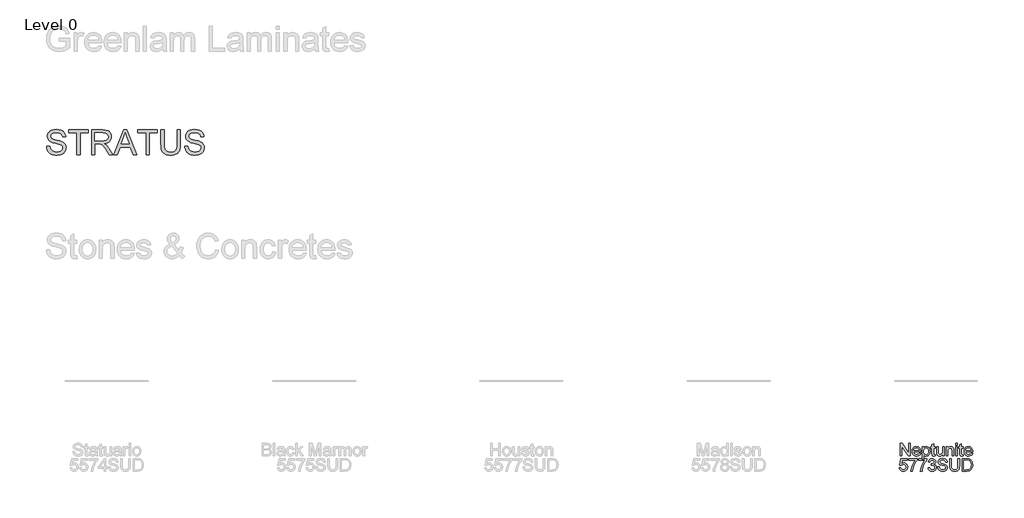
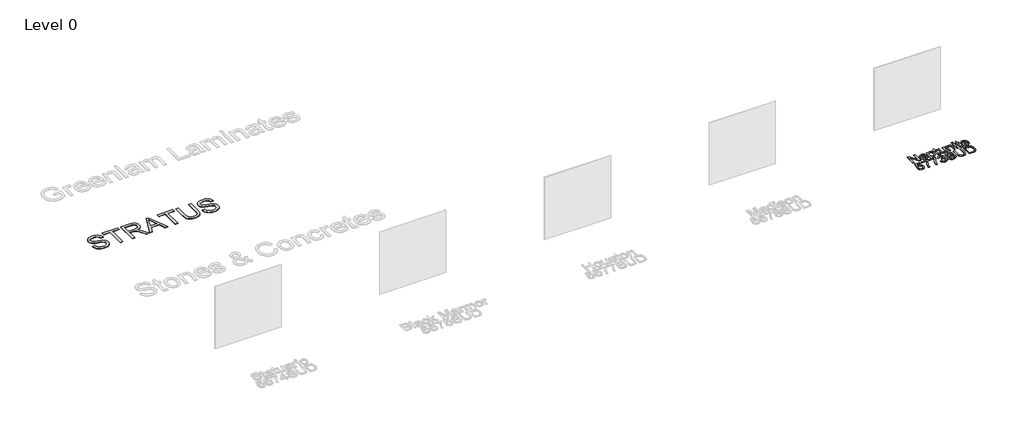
# One storey, part 11 of 12: 2 proxies.
"""IFC4 building model written with IfcOpenShell, lengths in millimetres."""

from ifc_helpers import new_model, si_unit, origin, origin_with_axes, place, context, project, spatial, polyline, outline, extrude, element, save

model = new_model("IFC4")

# Units and contexts
model_context = context("Model", 3, world=origin())
ifc_project = project(units=[si_unit("LENGTHUNIT", "METRE", prefix="MILLI")], contexts=[model_context])

# Site, building, storey
site = spatial("IfcSite", under=ifc_project)
building = spatial("IfcBuilding", under=site)
storey = spatial("IfcBuildingStorey", under=building, Name="Level 0", Elevation=0.0)

# Proxies
placement = place(None, origin())
element("IfcBuildingElementProxy", 1, Name="300mm Arial", ObjectType="300mm Arial", at=placement, inside=storey, context=model_context, shape_type="SweptSolid", body=[
    extrude(outline(polyline([(9689.969603, -7002.860494), (9689.969603, -6701.4915635), (9730.2894696, -6701.4915635), (9887.7429636, -6940.2469784), (9887.7429636, -6701.4915635), (9925.4140799, -6701.4915635), (9925.4140799, -7002.860494), (9885.0942132, -7002.860494), (9727.6407193, -6764.0315027), (9727.6407193, -7002.860494), (9689.969603, -7002.860494)])), origin_with_axes(), (0.0, 0.0, 1.0), 10.0),
    extrude(outline(polyline([(10141.5815402, -6936.9360404), (10178.5168926, -6941.64493), (10165.2087614, -6969.4752029), (10143.9727732, -6990.2789297), (10115.2871746, -7003.2467701), (10079.6302123, -7007.5693835), (10056.25591, -7005.7046817), (10035.4291905, -7000.1105761), (10017.1500539, -6990.7870668), (10001.4185001, -6977.7341537), (9988.767958, -6961.3151204), (9979.7318565, -6941.8932503), (9974.3101956, -6919.4685435), (9972.5029753, -6894.0409998), (9974.3285897, -6867.7512327), (9979.8054329, -6844.5792656), (9988.9335049, -6824.5250983), (10001.7128057, -6807.5887309), (10017.4029728, -6794.133447), (10035.2636436, -6784.5225298), (10055.2948183, -6778.7559796), (10077.4964967, -6776.8337961), (10098.9831045, -6778.751381), (10118.4141716, -6784.5041357), (10135.7896981, -6794.0920602), (10151.1096839, -6807.5151545), (10163.6153725, -6824.4147337), (10172.5480072, -6844.4321128), (10177.907588, -6867.5672917), (10179.6941149, -6893.8202706), (10179.4733857, -6903.9738137), (10010.1740916, -6903.9738137), (10016.6947999, -6932.1719686), (10031.8423411, -6952.902119), (10053.7037286, -6965.6492302), (10080.3659762, -6969.8982672), (10100.415545, -6967.9300985), (10117.3013286, -6962.0255925), (10131.023327, -6951.8168672), (10141.5815402, -6936.9360404)]), holes=[polyline([(10010.1740916, -6866.3026974), (10142.0229986, -6866.3026974), (10136.927833, -6846.4002814), (10126.9398368, -6832.1632482), (10104.9772817, -6818.9194964), (10077.3493439, -6814.5049125), (10051.9562892, -6818.0273826), (10030.9594243, -6828.5947929), (10016.3637061, -6845.0667092), (10010.1740916, -6866.3026974)])]), origin_with_axes(), (0.0, 0.0, 1.0), 10.0),
    extrude(outline(polyline([(10217.3652312, -7087.6205057), (10217.3652312, -6781.5426857), (10255.0363476, -6781.5426857), (10255.0363476, -6818.478038), (10267.3236062, -6800.2586822), (10281.0823928, -6787.2448566), (10297.1220478, -6779.4365613), (10316.2519115, -6776.8337961), (10341.7277397, -6780.4758279), (10364.0029945, -6791.4019232), (10382.1395769, -6808.9498943), (10395.1993877, -6832.4575538), (10403.0904565, -6860.2142504), (10405.7208128, -6890.5093327), (10402.7501657, -6922.7265984), (10393.8382243, -6951.5409557), (10379.2700973, -6975.4900735), (10359.3308932, -6993.1116211), (10336.1083422, -7003.9549429), (10311.6901748, -7007.5693835), (10294.3721299, -7005.1505594), (10278.911889, -6997.894087), (10265.6773343, -6986.9404006), (10255.0363476, -6973.4299344), (10255.0363476, -7087.6205057), (10217.3652312, -7087.6205057)]), holes=[polyline([(10255.0363476, -6893.9674234), (10259.1106406, -6927.7389906), (10271.3335199, -6951.3570147), (10289.3689348, -6965.2629541), (10310.8808344, -6969.8982672), (10332.742222, -6965.0974072), (10351.2374893, -6950.6948271), (10363.8466447, -6926.2122803), (10368.0496965, -6891.1715202), (10363.9478122, -6857.5838941), (10351.6421595, -6833.6347762), (10333.6343358, -6819.2873784), (10312.4259388, -6814.5049125), (10291.1347683, -6819.590881), (10272.4371659, -6834.8487868), (10259.3865521, -6859.8003831), (10255.0363476, -6893.9674234)])]), origin_with_axes(), (0.0, 0.0, 1.0), 10.0),
    extrude(outline(polyline([(10528.1519408, -6971.4433716), (10532.8608303, -7003.96414), (10504.6810695, -7007.5693835), (10486.5996694, -7006.005885), (10473.1167943, -7001.3153896), (10463.5886506, -6994.0865084), (10457.3714449, -6984.9078526), (10453.9501423, -6969.1441091), (10452.8097082, -6942.1599648), (10452.8097082, -6819.213802), (10424.5563709, -6819.213802), (10424.5563709, -6781.5426857), (10452.8097082, -6781.5426857), (10452.8097082, -6727.758338), (10490.4808245, -6705.6118419), (10490.4808245, -6781.5426857), (10528.1519408, -6781.5426857), (10528.1519408, -6819.213802), (10490.4808245, -6819.213802), (10490.4808245, -6941.0563188), (10492.4673872, -6960.4804881), (10498.9053222, -6967.3598814), (10511.7444038, -6969.8982672), (10528.1519408, -6971.4433716)])), origin_with_axes(), (0.0, 0.0, 1.0), 10.0),
    extrude(outline(polyline([(10707.0897432, -7002.860494), (10707.0897432, -6964.8214957), (10693.4597153, -6983.5236966), (10677.5856072, -6996.8824116), (10659.4674189, -7004.8976405), (10639.1051505, -7007.5693835), (10620.757036, -7005.6931853), (10603.6781144, -7000.0645908), (10589.3491107, -6991.6033049), (10579.2507499, -6981.2290327), (10568.030349, -6953.4907302), (10565.8230571, -6918.4683643), (10565.8230571, -6781.5426857), (10603.4941734, -6781.5426857), (10603.4941734, -6900.7364521), (10605.7750418, -6939.1433324), (10611.2656805, -6951.9548229), (10620.6742626, -6961.6944987), (10633.3753884, -6967.8473251), (10648.7436588, -6969.8982672), (10664.9948459, -6967.8013398), (10680.1975694, -6961.5105577), (10692.7331484, -6951.605335), (10700.9829021, -6938.6650858), (10705.5630329, -6920.9423707), (10707.0897432, -6896.6897502), (10707.0897432, -6781.5426857), (10744.7608595, -6781.5426857), (10744.7608595, -7002.860494), (10707.0897432, -7002.860494)])), origin_with_axes(), (0.0, 0.0, 1.0), 10.0),
    extrude(outline(polyline([(10796.5586445, -7002.860494), (10796.5586445, -6781.5426857), (10834.2297608, -6781.5426857), (10834.2297608, -6812.4447733), (10847.3171627, -6796.8649708), (10863.034921, -6785.7365404), (10881.3830355, -6779.0594822), (10902.3615063, -6776.8337961), (10920.93035, -6778.6272209), (10937.9356952, -6784.0074951), (10952.1175461, -6792.303234), (10962.2159069, -6802.8430532), (10973.5098841, -6830.5445674), (10975.4964469, -6866.964885), (10975.4964469, -7002.860494), (10937.8253306, -7002.860494), (10937.8253306, -6872.0416565), (10933.4843231, -6838.7115477), (10927.4786495, -6828.7879309), (10918.1436439, -6821.0900002), (10906.178282, -6816.1511844), (10892.2815396, -6814.5049125), (10870.2178169, -6818.2021265), (10851.4098499, -6829.2937687), (10843.8935609, -6838.3482643), (10838.5247831, -6850.7228949), (10834.2297608, -6885.4325611), (10834.2297608, -7002.860494), (10796.5586445, -7002.860494)])), origin_with_axes(), (0.0, 0.0, 1.0), 10.0),
    extrude(outline(polyline([(11027.2942318, -6739.1626798), (11027.2942318, -6701.4915635), (11064.9653481, -6701.4915635), (11064.9653481, -6739.1626798), (11027.2942318, -6739.1626798)])), origin_with_axes(), (0.0, 0.0, 1.0), 10.0),
    extrude(outline(polyline([(11027.2942318, -7002.860494), (11027.2942318, -6781.5426857), (11064.9653481, -6781.5426857), (11064.9653481, -7002.860494), (11027.2942318, -7002.860494)])), origin_with_axes(), (0.0, 0.0, 1.0), 10.0),
    extrude(outline(polyline([(11201.5231447, -6971.4433716), (11206.2320343, -7003.96414), (11178.0522734, -7007.5693835), (11159.9708734, -7006.005885), (11146.4879983, -7001.3153896), (11136.9598546, -6994.0865084), (11130.7426489, -6984.9078526), (11127.3213463, -6969.1441091), (11126.1809121, -6942.1599648), (11126.1809121, -6819.213802), (11097.9275749, -6819.213802), (11097.9275749, -6781.5426857), (11126.1809121, -6781.5426857), (11126.1809121, -6727.758338), (11163.8520284, -6705.6118419), (11163.8520284, -6781.5426857), (11201.5231447, -6781.5426857), (11201.5231447, -6819.213802), (11163.8520284, -6819.213802), (11163.8520284, -6941.0563188), (11165.8385912, -6960.4804881), (11172.2765261, -6967.3598814), (11185.1156078, -6969.8982672), (11201.5231447, -6971.4433716)])), origin_with_axes(), (0.0, 0.0, 1.0), 10.0),
    extrude(outline(polyline([(11394.1461574, -6936.9360404), (11431.0815097, -6941.64493), (11417.7733786, -6969.4752029), (11396.5373904, -6990.2789297), (11367.8517918, -7003.2467701), (11332.1948294, -7007.5693835), (11308.8205272, -7005.7046817), (11287.9938077, -7000.1105761), (11269.7146711, -6990.7870668), (11253.9831173, -6977.7341537), (11241.3325751, -6961.3151204), (11232.2964736, -6941.8932503), (11226.8748127, -6919.4685435), (11225.0675924, -6894.0409998), (11226.8932068, -6867.7512327), (11232.37005, -6844.5792656), (11241.498122, -6824.5250983), (11254.2774229, -6807.5887309), (11269.9675899, -6794.133447), (11287.8282608, -6784.5225298), (11307.8594354, -6778.7559796), (11330.0611139, -6776.8337961), (11351.5477216, -6778.751381), (11370.9787888, -6784.5041357), (11388.3543153, -6794.0920602), (11403.6743011, -6807.5151545), (11416.1799897, -6824.4147337), (11425.1126244, -6844.4321128), (11430.4722052, -6867.5672917), (11432.2587321, -6893.8202706), (11432.0380029, -6903.9738137), (11262.7387087, -6903.9738137), (11269.2594171, -6932.1719686), (11284.4069583, -6952.902119), (11306.2683458, -6965.6492302), (11332.9305934, -6969.8982672), (11352.9801622, -6967.9300985), (11369.8659457, -6962.0255925), (11383.5879442, -6951.8168672), (11394.1461574, -6936.9360404)]), holes=[polyline([(11262.7387087, -6866.3026974), (11394.5876158, -6866.3026974), (11389.4924502, -6846.4002814), (11379.504454, -6832.1632482), (11357.5418989, -6818.9194964), (11329.9139611, -6814.5049125), (11304.5209063, -6818.0273826), (11283.5240415, -6828.5947929), (11268.9283233, -6845.0667092), (11262.7387087, -6866.3026974)])]), origin_with_axes(), (0.0, 0.0, 1.0), 10.0),
    extrude(outline(polyline([(9666.4251553, -7288.7338254), (9704.0962716, -7284.0249358), (9711.0124531, -7306.6404815), (9723.0789825, -7322.8364863), (9740.2406776, -7332.5761621), (9762.442356, -7335.8227207), (9789.4448945, -7331.3069693), (9809.6784042, -7317.7597148), (9822.3151507, -7296.7444558), (9826.5273996, -7269.8246908), (9822.5818652, -7244.4776213), (9810.745262, -7225.0902402), (9790.9256195, -7212.7845875), (9763.0309672, -7208.6827032), (9744.7564291, -7210.3197781), (9729.9583758, -7215.2310027), (9708.8051611, -7232.2271509), (9671.1340448, -7227.5182614), (9704.0962716, -7072.1249066), (9850.0718473, -7072.1249066), (9850.0718473, -7109.7960229), (9734.5569008, -7109.7960229), (9718.4436694, -7192.790201), (9745.3542373, -7176.4562404), (9773.5523923, -7171.0115869), (9791.8982075, -7172.6992456), (9808.7495022, -7177.7622215), (9824.1062762, -7186.2005148), (9837.9685296, -7198.0141254), (9849.4441486, -7212.4810848), (9857.6410193, -7228.8794248), (9862.5591417, -7247.2091452), (9864.1985159, -7267.470246), (9858.2940099, -7305.1413624), (9850.9133773, -7321.9351754), (9840.5804918, -7337.3678251), (9824.9271129, -7353.1729553), (9806.6617718, -7364.4623341), (9785.7844686, -7371.2359613), (9762.2952032, -7373.4938371), (9725.2954715, -7367.6904986), (9709.6168008, -7360.4363255), (9695.8189267, -7350.2804832), (9684.3387092, -7337.7288093), (9675.6130081, -7323.2871418), (9666.4251553, -7288.7338254)])), origin_with_axes(), (0.0, 0.0, 1.0), 10.0),
    extrude(outline(polyline([(9897.1607426, -7109.7960229), (9897.1607426, -7072.1249066), (10094.9341033, -7072.1249066), (10094.9341033, -7102.5855358), (10066.7451454, -7138.2608923), (10038.832099, -7183.6299393), (10014.2115965, -7234.5540045), (9995.9002701, -7286.8944154), (9986.9239495, -7326.0554538), (9981.9207543, -7368.7849475), (9944.249638, -7368.7849475), (9948.3239311, -7329.9550029), (9959.2224352, -7283.8042066), (9976.6508448, -7234.8850983), (10000.3148541, -7187.7502177), (10027.9427919, -7145.1402856), (10057.2629869, -7109.7960229), (9897.1607426, -7109.7960229)])), origin_with_axes(), (0.0, 0.0, 1.0), 10.0),
    extrude(outline(polyline([(10127.89633, -7109.7960229), (10127.89633, -7072.1249066), (10325.6696906, -7072.1249066), (10325.6696906, -7102.5855358), (10297.4807327, -7138.2608923), (10269.5676864, -7183.6299393), (10244.9471838, -7234.5540045), (10226.6358575, -7286.8944154), (10217.6595368, -7326.0554538), (10212.6563417, -7368.7849475), (10174.9852254, -7368.7849475), (10179.0595185, -7329.9550029), (10189.9580226, -7283.8042066), (10207.3864321, -7234.8850983), (10231.0504415, -7187.7502177), (10258.6783793, -7145.1402856), (10287.9985743, -7109.7960229), (10127.89633, -7109.7960229)])), origin_with_axes(), (0.0, 0.0, 1.0), 10.0),
    extrude(outline(polyline([(10358.6319174, -7288.7338254), (10396.3030337, -7284.0249358), (10404.7367284, -7307.6981422), (10417.0883664, -7323.6826149), (10433.964953, -7332.7876943), (10455.9734933, -7335.8227207), (10481.7988094, -7331.6472601), (10501.7380135, -7319.1208782), (10514.4851246, -7300.4324728), (10518.7341617, -7277.7709419), (10514.5219128, -7256.2590422), (10501.8851663, -7238.8122386), (10482.7553026, -7227.2515469), (10459.0637021, -7223.397983), (10432.6497748, -7227.5182614), (10436.8436296, -7189.8471451), (10442.8768943, -7190.2886035), (10465.4464547, -7187.5846708), (10485.6247821, -7179.4728728), (10499.8618153, -7165.7508744), (10504.6074931, -7146.2163404), (10501.1677964, -7129.9467592), (10490.8487065, -7116.7489926), (10475.1033571, -7108.0025982), (10455.3848821, -7105.0871334), (10435.629619, -7108.0301893), (10419.4795994, -7116.8593572), (10407.6889814, -7131.574637), (10401.0119232, -7152.1760288), (10363.3408069, -7147.4671392), (10374.4324491, -7113.6403898), (10394.1693181, -7088.3852908), (10421.1718566, -7072.6583355), (10454.0605069, -7067.4160171), (10477.7429104, -7070.0003881), (10499.4939333, -7077.7535011), (10517.8328508, -7089.9855775), (10531.2789377, -7106.0068384), (10539.5286915, -7124.4653175), (10542.2786094, -7144.0090485), (10539.6666472, -7162.2192072), (10531.8307607, -7178.7371088), (10518.8813145, -7192.8085951), (10500.9286731, -7203.6795081), (10524.509909, -7213.2076518), (10541.9843038, -7229.4312477), (10552.8000344, -7251.4673793), (10556.405278, -7278.4331295), (10554.6026562, -7297.5445992), (10549.1947909, -7315.1477526), (10540.181682, -7331.2425899), (10527.5633296, -7345.829111), (10512.1904607, -7357.9324287), (10494.9138025, -7366.5776555), (10475.733355, -7371.7647917), (10454.6491181, -7373.4938371), (10435.5928308, -7372.0177105), (10418.2288006, -7367.589331), (10402.5570276, -7360.2086985), (10388.5775118, -7349.875813), (10376.8558717, -7337.1976797), (10367.957726, -7322.781304), (10361.8830745, -7306.6266859), (10358.6319174, -7288.7338254)])), origin_with_axes(), (0.0, 0.0, 1.0), 10.0),
    extrude(outline(polyline([(10589.3675048, -7265.1893777), (10627.0386211, -7265.1893777), (10631.3612345, -7286.0942721), (10639.1787269, -7302.8972822), (10651.3740151, -7316.2330045), (10668.8300157, -7326.7360355), (10690.1671714, -7333.5510494), (10714.0059247, -7335.8227207), (10734.9935926, -7334.1028724), (10753.3692982, -7328.9433274), (10768.259322, -7320.7763471), (10778.7899441, -7310.0341929), (10785.0531351, -7297.700949), (10787.1408654, -7284.7606998), (10785.5773669, -7272.1515444), (10780.8868715, -7261.2530403), (10771.3587278, -7251.9548229), (10755.2822846, -7244.1465276), (10700.4310791, -7229.7623415), (10664.4246288, -7220.2433949), (10641.3860189, -7211.1843008), (10622.6332342, -7198.510766), (10609.3434971, -7183.1516928), (10601.4248372, -7165.4381747), (10598.7852838, -7145.7013056), (10602.0502366, -7123.637583), (10611.8450947, -7103.0637824), (10627.9123408, -7085.6261758), (10649.9944576, -7072.9710352), (10676.5003553, -7065.2731044), (10705.8389444, -7062.7071275), (10737.6239488, -7065.3926661), (10765.4358277, -7073.4492818), (10788.2812996, -7086.7114277), (10805.1670831, -7105.013557), (10815.8540551, -7127.2152354), (10820.1030921, -7152.1760288), (10782.4319758, -7152.1760288), (10775.5157943, -7129.6984389), (10761.0948201, -7113.4748429), (10738.5620479, -7103.6523936), (10707.3104724, -7100.3782438), (10675.3231329, -7103.6156054), (10653.3789719, -7113.3276901), (10640.6870431, -7127.6199056), (10636.4564002, -7144.5976597), (10639.4546384, -7159.0738162), (10648.4493532, -7170.7172813), (10669.7129325, -7181.1283418), (10709.9592228, -7191.7601314), (10751.4931, -7201.8584922), (10776.6194403, -7210.669266), (10798.0945518, -7224.3360821), (10813.076546, -7241.2034716), (10821.8781228, -7261.0874934), (10824.8119817, -7283.8042066), (10821.4366644, -7307.0267576), (10811.3107125, -7328.869751), (10794.8479932, -7347.668521), (10772.4623738, -7361.7584014), (10745.5426088, -7370.5599781), (10715.4774527, -7373.4938371), (10678.5696915, -7370.3300519), (10648.1918358, -7360.8386964), (10623.9943976, -7344.9829824), (10605.627889, -7322.7261217), (10593.837271, -7295.6132187), (10589.3675048, -7265.1893777)])), origin_with_axes(), (0.0, 0.0, 1.0), 10.0),
    extrude(outline(polyline([(11079.0920167, -7067.4160171), (11116.7631331, -7067.4160171), (11116.7631331, -7241.277048), (11114.2063532, -7281.9923878), (11106.5360136, -7313.3451308), (11092.2070099, -7337.533372), (11069.6742377, -7356.7552063), (11038.8825147, -7369.3091794), (10999.7766586, -7373.4938371), (10961.5261281, -7369.8518053), (10930.9459373, -7358.92571), (10908.026889, -7341.0926303), (10892.7597862, -7316.7296452), (10884.1789387, -7284.052527), (10881.3186561, -7241.277048), (10881.3186561, -7067.4160171), (10918.9897724, -7067.4160171), (10918.9897724, -7239.9526728), (10920.8475765, -7273.8070134), (10926.4209887, -7297.3790523), (10936.5193495, -7313.7038158), (10951.9519992, -7325.8163305), (10972.0751444, -7333.3211232), (10996.2449914, -7335.8227207), (11034.5599012, -7330.8747079), (11048.9027005, -7324.6896919), (11060.0357294, -7316.0306694), (11068.3728551, -7303.8537754), (11074.3279449, -7287.1151446), (11079.0920167, -7239.9526728), (11079.0920167, -7067.4160171)])), origin_with_axes(), (0.0, 0.0, 1.0), 10.0),
    extrude(outline(polyline([(11182.6875866, -7368.7849475), (11182.6875866, -7067.4160171), (11286.6510384, -7067.4160171), (11340.4353861, -7071.7570246), (11364.4580804, -7080.12634), (11384.7283783, -7093.3149095), (11405.5688934, -7116.270746), (11420.4129319, -7144.8183889), (11429.2972821, -7178.406015), (11432.2587321, -7216.4818015), (11430.2537752, -7248.8278259), (11424.2389046, -7277.2926953), (11415.0786429, -7301.5269217), (11403.6375129, -7321.1810173), (11390.4673375, -7336.6964405), (11376.1199397, -7348.5146496), (11359.6480233, -7357.2794381), (11340.1042923, -7363.6345996), (11291.6542336, -7368.7849475), (11182.6875866, -7368.7849475)]), holes=[polyline([(11220.3587029, -7331.1138312), (11287.0189204, -7331.1138312), (11314.591676, -7329.7526678), (11335.5057674, -7325.6691777), (11351.287905, -7319.1024841), (11363.464799, -7310.2917103), (11376.552201, -7293.9853408), (11386.3838473, -7272.8781114), (11392.5366737, -7246.8780514), (11394.5876158, -7215.8931903), (11390.568505, -7174.8375597), (11378.5111726, -7144.5240833), (11360.696487, -7123.7019623), (11339.4053165, -7111.1203981), (11317.737067, -7106.5954496), (11285.9888508, -7105.0871334), (11220.3587029, -7105.0871334), (11220.3587029, -7331.1138312)])]), origin_with_axes(), (0.0, 0.0, 1.0), 10.0),
])
element("IfcBuildingElementProxy", 2, Name="600mm Arial", ObjectType="600mm Arial", at=placement, inside=storey, context=model_context, shape_type="SweptSolid", body=[
    extrude(outline(polyline([(-10905.7165225, 467.3190924), (-10830.3742899, 467.3190924), (-10821.729063, 425.5093036), (-10806.0940782, 391.9032833), (-10781.7035019, 365.2318387), (-10746.7915006, 344.2257768), (-10704.1171891, 330.5957488), (-10656.4396825, 326.0524062), (-10614.4643469, 329.4921029), (-10577.7129356, 339.8111928), (-10547.9328881, 356.1451534), (-10526.8716438, 377.6294619), (-10514.3452619, 402.2959497), (-10510.1698013, 428.1764481), (-10513.2967982, 453.3947588), (-10522.6777891, 475.1917671), (-10541.7340764, 493.7882019), (-10573.8869628, 509.4047926), (-10683.5893738, 538.1731646), (-10755.6022743, 557.2110579), (-10801.6794942, 575.3292461), (-10839.1850636, 600.6763156), (-10865.7645378, 631.3944622), (-10881.6018577, 666.8214983), (-10886.8809643, 706.2952364), (-10885.248488, 728.7314396), (-10880.3510589, 750.4226817), (-10872.1886771, 771.3689628), (-10860.7613427, 791.5702829), (-10846.1978142, 810.203506), (-10828.6268504, 826.445496), (-10808.0484513, 840.2962532), (-10784.4626169, 851.7557773), (-10731.4508214, 867.1516388), (-10672.7736431, 872.2835926), (-10609.2036344, 866.9125155), (-10553.5798767, 850.7992841), (-10529.2444827, 838.797134), (-10507.8889329, 824.2749923), (-10489.5132272, 807.2328588), (-10474.1173657, 787.6707338), (-10461.82091, 766.1588341), (-10452.7434218, 743.2673769), (-10446.884901, 718.9963623), (-10444.2453477, 693.3457902), (-10519.5875803, 693.3457902), (-10524.6275637, 717.3868786), (-10533.4199434, 738.30097), (-10545.9647194, 756.0880645), (-10562.2618918, 770.748162), (-10582.6149632, 782.2076861), (-10607.3274362, 790.3930605), (-10636.3993109, 795.3042852), (-10669.8305872, 796.94136), (-10704.3287213, 795.3226793), (-10733.8052661, 790.4666369), (-10758.2602218, 782.373233), (-10777.6935881, 771.0424676), (-10792.5008385, 757.4216367), (-10803.0774458, 742.4580365), (-10809.4234102, 726.1516671), (-10811.5387317, 708.5025284), (-10810.0396126, 693.318199), (-10805.5422552, 679.5502154), (-10798.0466595, 667.1985774), (-10787.5528256, 656.2632851), (-10771.034924, 645.9074069), (-10745.025667, 635.4411642), (-10664.5330864, 614.1775848), (-10581.4653319, 593.9808633), (-10531.2126514, 576.3593157), (-10488.2624284, 549.0256835), (-10471.6571549, 532.9584373), (-10458.2984399, 515.2909045), (-10448.0299337, 496.1150555), (-10440.6952865, 475.5228608), (-10434.8275686, 430.0894344), (-10436.5152273, 406.5219941), (-10441.5782033, 383.6443326), (-10450.0164965, 361.4564497), (-10461.8301071, 339.9583456), (-10476.8121013, 319.9823533), (-10494.7555457, 302.3608057), (-10515.66044, 287.0937029), (-10539.5267845, 274.1810449), (-10565.6602017, 263.9125387), (-10593.3663145, 256.5778914), (-10653.4966266, 250.7101736), (-10692.0368641, 252.2920662), (-10727.3121489, 257.0377439), (-10759.322481, 264.9472068), (-10788.0678604, 276.0204549), (-10813.7230311, 290.2758822), (-10836.4627369, 307.7318828), (-10856.2869779, 328.3884569), (-10873.1957541, 352.2456043), (-10886.816585, 378.5307728), (-10896.77699, 406.4714104), (-10903.0769692, 436.0675169), (-10905.7165225, 467.3190924)])), origin_with_axes(), (0.0, 0.0, 1.0), 10.0),
    extrude(outline(polyline([(-10171.1297545, 260.1279527), (-10171.1297545, 787.523581), (-10368.9031151, 787.523581), (-10368.9031151, 862.8658136), (-9898.0141613, 862.8658136), (-9898.0141613, 787.523581), (-10095.7875219, 787.523581), (-10095.7875219, 260.1279527), (-10171.1297545, 260.1279527)])), origin_with_axes(), (0.0, 0.0, 1.0), 10.0),
    extrude(outline(polyline([(-9813.2541496, 260.1279527), (-9813.2541496, 862.8658136), (-9553.529461, 862.8658136), (-9483.7238524, 858.8007175), (-9432.937743, 846.6054294), (-9413.3388297, 836.9117388), (-9395.8184497, 824.0910513), (-9380.3766029, 808.1433668), (-9367.0132894, 789.0686853), (-9356.2297485, 767.892478), (-9348.5272192, 745.6402158), (-9343.9057016, 722.3118988), (-9342.3651958, 697.9075269), (-9344.9173771, 666.950257), (-9352.5739211, 638.5313729), (-9365.3348278, 612.6508745), (-9383.2000972, 589.308762), (-9406.3996556, 569.2499962), (-9435.1634291, 553.2195382), (-9469.4914177, 541.2173881), (-9509.3836216, 533.2435459), (-9484.5515869, 517.0199499), (-9466.5621573, 501.0170831), (-9435.6968579, 464.4128246), (-9405.4937461, 423.4675585), (-9304.9883851, 260.1279527), (-9392.5442999, 260.1279527), (-9470.9767413, 385.0606782), (-9527.6305685, 467.7605507), (-9548.6918128, 491.8752155), (-9567.4354004, 506.8296186), (-9603.2671067, 521.1770164), (-9646.9714878, 523.8257668), (-9737.911917, 523.8257668), (-9737.911917, 260.1279527), (-9813.2541496, 260.1279527)]), holes=[polyline([(-9737.911917, 599.1679994), (-9569.2748104, 599.1679994), (-9520.8431457, 601.8351439), (-9483.2639999, 609.8365773), (-9454.9738745, 623.7057285), (-9434.409271, 643.9760264), (-9421.882889, 668.4953614), (-9417.7074284, 695.1116238), (-9419.6985897, 714.3794433), (-9425.6720736, 731.8630351), (-9435.6278801, 747.5623992), (-9449.5660092, 761.4775357), (-9467.8083576, 772.8726805), (-9490.6768221, 781.0120696), (-9518.1714027, 785.8957031), (-9550.2920994, 787.523581), (-9737.911917, 787.523581), (-9737.911917, 599.1679994)])]), origin_with_axes(), (0.0, 0.0, 1.0), 10.0),
    extrude(outline(polyline([(-9280.7081734, 260.1279527), (-9040.1133485, 862.8658136), (-8975.9547286, 862.8658136), (-8735.3599037, 260.1279527), (-8814.9695675, 260.1279527), (-8883.9842298, 448.4835342), (-9132.2310001, 448.4835342), (-9201.0985096, 260.1279527), (-9280.7081734, 260.1279527)]), holes=[polyline([(-9104.5662741, 523.8257668), (-8911.501803, 523.8257668), (-8965.8011855, 672.0086345), (-9008.0340386, 787.523581), (-9045.5580021, 684.9580807), (-9104.5662741, 523.8257668)])]), origin_with_axes(), (0.0, 0.0, 1.0), 10.0),
    extrude(outline(polyline([(-8504.182858, 260.1279527), (-8504.182858, 787.523581), (-8701.9562186, 787.523581), (-8701.9562186, 862.8658136), (-8231.0672647, 862.8658136), (-8231.0672647, 787.523581), (-8428.8406253, 787.523581), (-8428.8406253, 260.1279527), (-8504.182858, 260.1279527)])), origin_with_axes(), (0.0, 0.0, 1.0), 10.0),
    extrude(outline(polyline([(-7750.7605318, 862.8658136), (-7675.4182992, 862.8658136), (-7675.4182992, 515.1437517), (-7680.531859, 433.7130721), (-7686.9238086, 400.0196799), (-7695.8725382, 371.007586), (-7708.1505997, 345.5777431), (-7724.5305456, 322.6311037), (-7745.0123757, 302.1676677), (-7769.59609, 284.1874352), (-7798.3092797, 269.5411332), (-7831.179536, 259.079489), (-7868.2068588, 252.8025024), (-7909.3912482, 250.7101736), (-7949.5593635, 252.5311895), (-7985.8923091, 257.9942371), (-8018.3900848, 267.0993165), (-8047.0526907, 279.8464276), (-8071.8847254, 296.047031), (-8092.8907873, 315.512587), (-8110.0708765, 338.2430958), (-8123.4249929, 364.2385573), (-8133.4359817, 394.3910853), (-8140.586688, 429.5927937), (-8144.8771118, 469.8436825), (-8146.307253, 515.1437517), (-8146.307253, 862.8658136), (-8070.9650204, 862.8658136), (-8070.9650204, 517.7925021), (-8067.2494123, 450.0838209), (-8056.1025878, 402.9397432), (-8047.3377993, 385.5619175), (-8035.9058663, 370.2902161), (-8021.8067888, 357.1246392), (-8005.0405669, 346.0651867), (-7964.7942766, 331.0556013), (-7916.4545825, 326.0524062), (-7874.9299023, 328.5264126), (-7839.8247629, 335.9484319), (-7811.1391643, 348.318464), (-7788.8731065, 365.6365089), (-7772.1988551, 389.990297), (-7760.2886755, 423.4675585), (-7753.1425678, 466.0682936), (-7750.7605318, 517.7925021), (-7750.7605318, 862.8658136)])), origin_with_axes(), (0.0, 0.0, 1.0), 10.0),
    extrude(outline(polyline([(-7571.8227294, 467.3190924), (-7496.4804968, 467.3190924), (-7487.8352699, 425.5093036), (-7472.2002851, 391.9032833), (-7447.8097088, 365.2318387), (-7412.8977075, 344.2257768), (-7370.223396, 330.5957488), (-7322.5458894, 326.0524062), (-7280.5705538, 329.4921029), (-7243.8191425, 339.8111928), (-7214.039095, 356.1451534), (-7192.9778507, 377.6294619), (-7180.4514688, 402.2959497), (-7176.2760082, 428.1764481), (-7179.4030051, 453.3947588), (-7188.783996, 475.1917671), (-7207.8402834, 493.7882019), (-7239.9931697, 509.4047926), (-7349.6955807, 538.1731646), (-7421.7084812, 557.2110579), (-7467.7857011, 575.3292461), (-7505.2912706, 600.6763156), (-7531.8707447, 631.3944622), (-7547.7080646, 666.8214983), (-7552.9871712, 706.2952364), (-7551.3546949, 728.7314396), (-7546.4572658, 750.4226817), (-7538.294884, 771.3689628), (-7526.8675496, 791.5702829), (-7512.3040211, 810.203506), (-7494.7330573, 826.445496), (-7474.1546582, 840.2962532), (-7450.5688238, 851.7557773), (-7397.5570283, 867.1516388), (-7338.87985, 872.2835926), (-7275.3098413, 866.9125155), (-7219.6860836, 850.7992841), (-7195.3506896, 838.797134), (-7173.9951398, 824.2749923), (-7155.6194341, 807.2328588), (-7140.2235726, 787.6707338), (-7127.927117, 766.1588341), (-7118.8496287, 743.2673769), (-7112.9911079, 718.9963623), (-7110.3515546, 693.3457902), (-7185.6937872, 693.3457902), (-7190.7337706, 717.3868786), (-7199.5261503, 738.30097), (-7212.0709263, 756.0880645), (-7228.3680987, 770.748162), (-7248.7211701, 782.2076861), (-7273.4336431, 790.3930605), (-7302.5055178, 795.3042852), (-7335.9367941, 796.94136), (-7370.4349282, 795.3226793), (-7399.911473, 790.4666369), (-7424.3664287, 782.373233), (-7443.7997951, 771.0424676), (-7458.6070454, 757.4216367), (-7469.1836527, 742.4580365), (-7475.5296171, 726.1516671), (-7477.6449386, 708.5025284), (-7476.1458195, 693.318199), (-7471.6484621, 679.5502154), (-7464.1528664, 667.1985774), (-7453.6590325, 656.2632851), (-7437.1411309, 645.9074069), (-7411.1318739, 635.4411642), (-7330.6392933, 614.1775848), (-7247.5715388, 593.9808633), (-7197.3188583, 576.3593157), (-7154.3686354, 549.0256835), (-7137.7633618, 532.9584373), (-7124.4046468, 515.2909045), (-7114.1361407, 496.1150555), (-7106.8014934, 475.5228608), (-7100.9337756, 430.0894344), (-7102.6214342, 406.5219941), (-7107.6844102, 383.6443326), (-7116.1227034, 361.4564497), (-7127.936314, 339.9583456), (-7142.9183083, 319.9823533), (-7160.8617526, 302.3608057), (-7181.7666469, 287.0937029), (-7205.6329914, 274.1810449), (-7231.7664086, 263.9125387), (-7259.4725214, 256.5778914), (-7319.6028335, 250.7101736), (-7358.143071, 252.2920662), (-7393.4183558, 257.0377439), (-7425.4286879, 264.9472068), (-7454.1740673, 276.0204549), (-7479.829238, 290.2758822), (-7502.5689438, 307.7318828), (-7522.3931848, 328.3884569), (-7539.301961, 352.2456043), (-7552.9227919, 378.5307728), (-7562.8831969, 406.4714104), (-7569.1831761, 436.0675169), (-7571.8227294, 467.3190924)])), origin_with_axes(), (0.0, 0.0, 1.0), 10.0),
])

save(model, "model.ifc")
